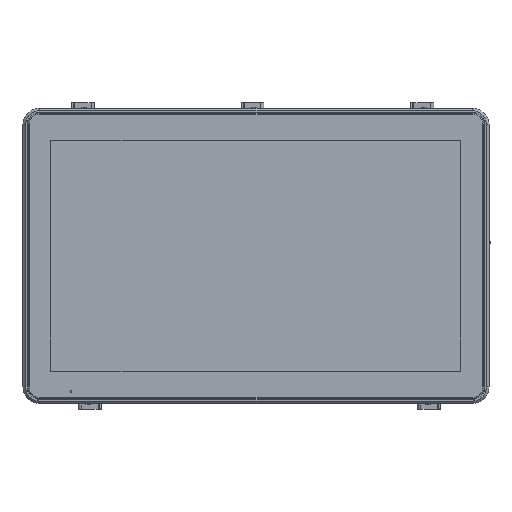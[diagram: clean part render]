
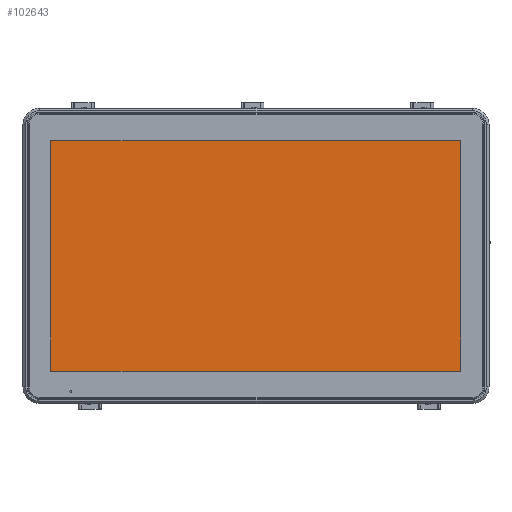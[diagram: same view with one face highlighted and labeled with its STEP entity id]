
A CAD part, top view. The second image highlights one B-rep face of the part: STEP entity #102643.
In plain terms, the highlighted planar face has unit normal (0, 0, 1).
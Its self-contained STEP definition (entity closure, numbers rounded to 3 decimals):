
#11003=PLANE('',#109600);
#15947=FACE_OUTER_BOUND('',#21803,.T.);
#21803=EDGE_LOOP('',(#88959,#88960,#88961,#88962));
#30883=LINE('',#170985,#40090);
#30884=LINE('',#170987,#40091);
#30885=LINE('',#170989,#40092);
#30886=LINE('',#170990,#40093);
#40090=VECTOR('',#129461,10.);
#40091=VECTOR('',#129462,10.);
#40092=VECTOR('',#129463,10.);
#40093=VECTOR('',#129464,10.);
#51608=VERTEX_POINT('',#170983);
#51609=VERTEX_POINT('',#170984);
#51610=VERTEX_POINT('',#170986);
#51611=VERTEX_POINT('',#170988);
#64448=EDGE_CURVE('',#51608,#51609,#30883,.T.);
#64449=EDGE_CURVE('',#51609,#51610,#30884,.T.);
#64450=EDGE_CURVE('',#51610,#51611,#30885,.T.);
#64451=EDGE_CURVE('',#51611,#51608,#30886,.T.);
#88959=ORIENTED_EDGE('',*,*,#64448,.T.);
#88960=ORIENTED_EDGE('',*,*,#64449,.T.);
#88961=ORIENTED_EDGE('',*,*,#64450,.T.);
#88962=ORIENTED_EDGE('',*,*,#64451,.T.);
#102643=ADVANCED_FACE('',(#15947),#11003,.T.);
#109600=AXIS2_PLACEMENT_3D('',#170982,#129459,#129460);
#129459=DIRECTION('center_axis',(0.,0.,1.));
#129460=DIRECTION('ref_axis',(-1.,0.,0.));
#129461=DIRECTION('',(1.,0.,0.));
#129462=DIRECTION('',(0.,1.,0.));
#129463=DIRECTION('',(-1.,0.,0.));
#129464=DIRECTION('',(0.,-1.,0.));
#170982=CARTESIAN_POINT('Origin',(0.,0.,
4.299));
#170983=CARTESIAN_POINT('',(-205.35,-115.3,4.299));
#170984=CARTESIAN_POINT('',(204.85,-115.3,4.299));
#170985=CARTESIAN_POINT('',(-0.125,-115.3,4.299));
#170986=CARTESIAN_POINT('',(204.85,115.5,4.299));
#170987=CARTESIAN_POINT('',(204.85,0.05,4.299));
#170988=CARTESIAN_POINT('',(-205.35,115.5,4.299));
#170989=CARTESIAN_POINT('',(-102.675,115.5,4.299));
#170990=CARTESIAN_POINT('',(-205.35,-57.65,4.299));
